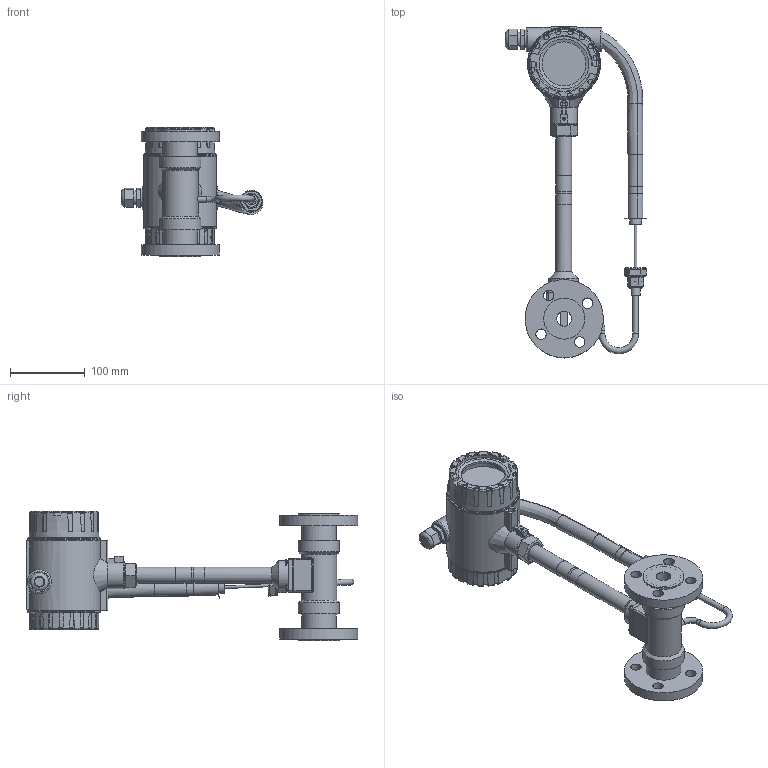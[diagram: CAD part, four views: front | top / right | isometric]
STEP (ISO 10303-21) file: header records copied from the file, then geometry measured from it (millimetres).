
FILE_DESCRIPTION(/* description */ ('STEP AP214'),/* implementation_level */ '2;1');
FILE_NAME(/* name */ 'DN20 vortex.step',/* time_stamp */ '2025-09-25T17:51:00+03:00',/* author */ (''),/* organization */ (''),/* preprocessor_version */ 'ST-DEVELOPER v20.1',/* originating_system */ 'Autodesk Translation Framework v14.10.0.0',/* authorisation */ '');
FILE_SCHEMA (('AUTOMOTIVE_DESIGN { 1 0 10303 214 3 1 1 }'));
Length unit declared in the file: millimetre
Products named in the file (1): DN100法兰连接装配体
Bounding box: 189.8 x 445.25 x 173.33 mm (x, y, z)
Volume: 1126731.2 mm3; surface area: 347710.5 mm2
Topology: 22 solids, 23 shells, 911 faces, 2247 edges, 1424 vertices
Faces by surface type: plane 514, cylinder 248, torus 59, cone 45, bspline 41, sphere 4
Full cylindrical faces by diameter (mm): 2.88 x1, 3.3 x1, 3.65 x2, 3.78 x8, 4.2 x2, 5.4 x8, 6 x4, 8 x4, 8.1 x1, 8.7 x2, 10 x1, 12 x1, 12.4 x1, 13 x1, 14 x9, 16 x2, 16.2 x2, 17.727 x4, 18 x4, 19 x7, 19.2 x2, 20 x3, 20.6 x1, 20.655 x1, 21.6 x2, 22.6 x1, 24.2 x1, 28 x2, 31.9 x2, 34.2 x1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
Entity records: 31509 total; most frequent: CARTESIAN_POINT 9566, DIRECTION 4721, ORIENTED_EDGE 4480, EDGE_CURVE 2240, AXIS2_PLACEMENT_3D 1796, VERTEX_POINT 1424, LINE 1129, VECTOR 1129
